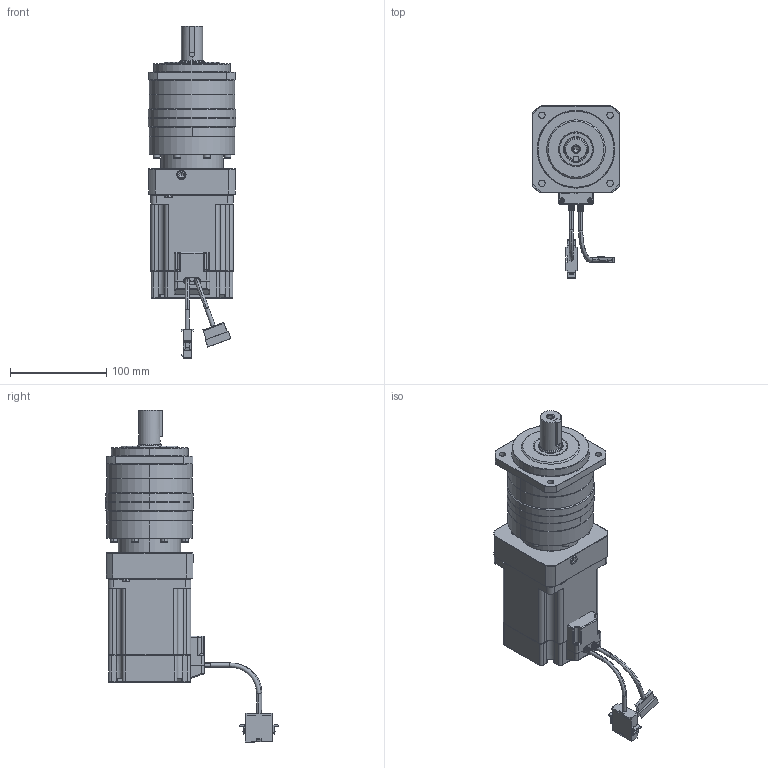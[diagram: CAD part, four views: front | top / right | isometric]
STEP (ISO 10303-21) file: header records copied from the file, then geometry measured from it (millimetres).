
FILE_DESCRIPTION (( 'STEP AP203' ), '1' );
FILE_NAME ('130416 Ezi-SERVO PG-ST-86M-PN15~50.STEP', '2013-04-16T08:33:36', ( '' ), ( '' ), 'SwSTEP 2.0', 'SolidWorks 2012', '' );
FILE_SCHEMA (( 'CONFIG_CONTROL_DESIGN' ));
Length unit declared in the file: metre
Products named in the file (15): 130416 Ezi-SERVO PG-ST-86M-PN15~50; ST86 2ST; MainEzM-86S-assembly-1-1; Mainconnector_e-1-8; MainPower Cable 86-1-4; MainEzM-86S-1-1; MainM3-screw5-1-4; MainM3-screw3-1-4; MainM3-screw2-1-4; MainM3-screw4-1-4; MainM3-screw1-1-4; MainM3-screw6-1-4; Main86_Encoder_Plate-1-4; MainEZSV_86_Encoder_Cover-1-4; MainEZSV_86_cable_Cover-1-4
Assembly tree (14 placements, depth 3):
  130416 Ezi-SERVO PG-ST-86M-PN15~50
    MainEzM-86S-assembly-1-1
      MainEZSV_86_cable_Cover-1-4
      MainEZSV_86_Encoder_Cover-1-4
      Main86_Encoder_Plate-1-4
      MainM3-screw6-1-4
      MainM3-screw1-1-4
      MainM3-screw4-1-4
      MainM3-screw2-1-4
      MainM3-screw3-1-4
      MainM3-screw5-1-4
      MainEzM-86S-1-1
      MainPower Cable 86-1-4
      Mainconnector_e-1-8
    ST86 2ST
Bounding box: 91 x 179.26 x 345 mm (x, y, z)
Volume: 1410347.7 mm3; surface area: 183993.2 mm2
Topology: 13 solids, 13 shells, 1413 faces, 3651 edges, 2298 vertices
Faces by surface type: plane 727, cylinder 444, cone 119, torus 71, bspline 28, sphere 24
Entity records: 45518 total; most frequent: CARTESIAN_POINT 9332, DIRECTION 7425, ORIENTED_EDGE 7118, EDGE_CURVE 3559, AXIS2_PLACEMENT_3D 2715, VERTEX_POINT 2278, LINE 1995, VECTOR 1995
